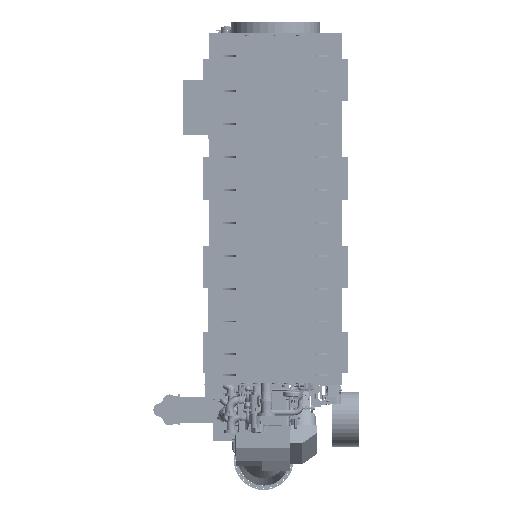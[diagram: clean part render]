
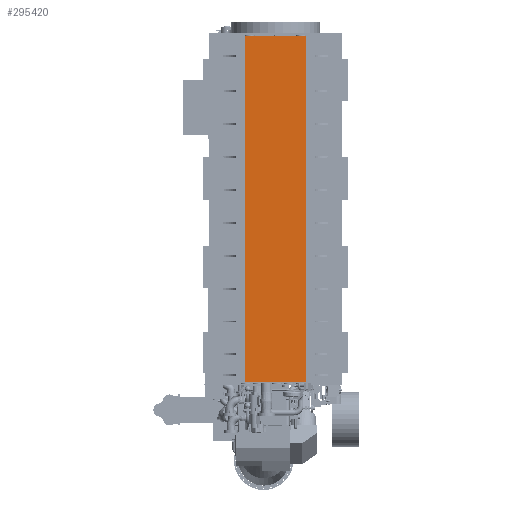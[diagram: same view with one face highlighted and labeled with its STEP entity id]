
A CAD part, front view. The second image highlights one B-rep face of the part: STEP entity #295420.
In plain terms, the highlighted planar face has unit normal (0, -1, 0).
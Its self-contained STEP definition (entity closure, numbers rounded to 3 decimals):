
#291637=DIRECTION('',(0.,0.,1.));
#291638=VECTOR('',#291637,5567.);
#291639=CARTESIAN_POINT('',(-490.,-1372.,-4945.));
#291640=LINE('',#291639,#291638);
#291641=DIRECTION('',(0.,0.,-1.));
#291642=VECTOR('',#291641,5567.);
#291643=CARTESIAN_POINT('',(490.,-1372.,622.));
#291644=LINE('',#291643,#291642);
#291645=DIRECTION('',(-1.,0.,0.));
#291646=VECTOR('',#291645,980.);
#291647=CARTESIAN_POINT('',(490.,-1372.,-4945.));
#291648=LINE('',#291647,#291646);
#292807=DIRECTION('',(1.,0.,0.));
#292808=VECTOR('',#292807,980.);
#292809=CARTESIAN_POINT('',(-490.,-1372.,622.));
#292810=LINE('',#292809,#292808);
#294463=CARTESIAN_POINT('',(-490.,-1372.,622.));
#294464=CARTESIAN_POINT('',(490.,-1372.,622.));
#294465=VERTEX_POINT('',#294463);
#294466=VERTEX_POINT('',#294464);
#294515=CARTESIAN_POINT('',(-490.,-1372.,-4945.));
#294516=CARTESIAN_POINT('',(490.,-1372.,-4945.));
#294517=VERTEX_POINT('',#294515);
#294518=VERTEX_POINT('',#294516);
#295405=CARTESIAN_POINT('',(-490.,-1372.,607.));
#295406=DIRECTION('',(0.,-1.,0.));
#295407=DIRECTION('',(1.,0.,0.));
#295408=AXIS2_PLACEMENT_3D('',#295405,#295406,#295407);
#295409=PLANE('',#295408);
#295411=ORIENTED_EDGE('',*,*,#295410,.T.);
#295413=ORIENTED_EDGE('',*,*,#295412,.T.);
#295415=ORIENTED_EDGE('',*,*,#295414,.T.);
#295417=ORIENTED_EDGE('',*,*,#295416,.T.);
#295418=EDGE_LOOP('',(#295411,#295413,#295415,#295417));
#295419=FACE_OUTER_BOUND('',#295418,.F.);
#295420=ADVANCED_FACE('',(#295419),#295409,.T.);
#295410=EDGE_CURVE('',#294517,#294465,#291640,.T.);
#295412=EDGE_CURVE('',#294465,#294466,#292810,.T.);
#295414=EDGE_CURVE('',#294466,#294518,#291644,.T.);
#295416=EDGE_CURVE('',#294518,#294517,#291648,.T.);
